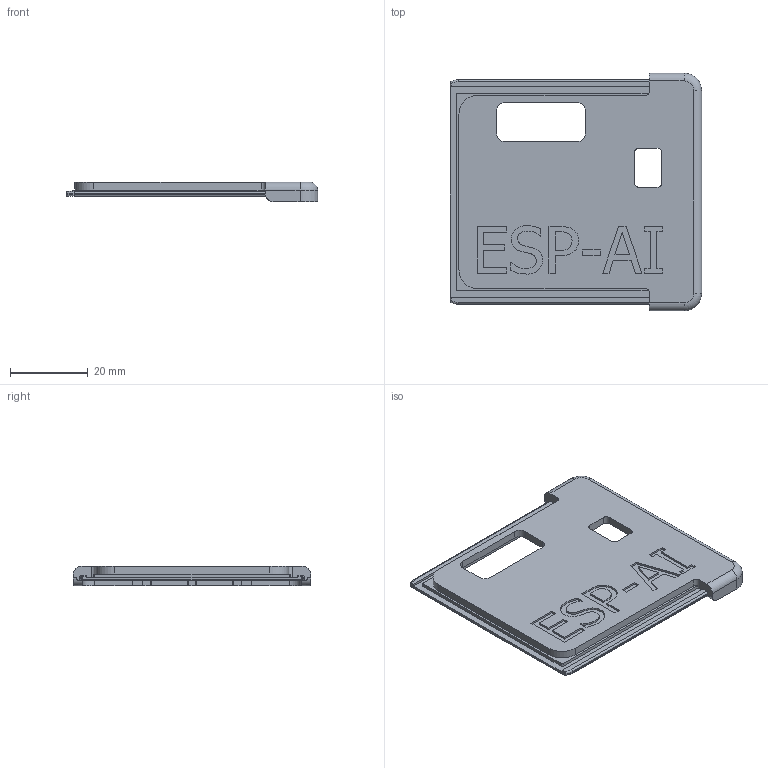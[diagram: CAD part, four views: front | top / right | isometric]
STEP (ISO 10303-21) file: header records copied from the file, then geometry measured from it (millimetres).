
FILE_DESCRIPTION(/* description */ (''),/* implementation_level */ '2;1');
FILE_NAME(/* name */ '',/* time_stamp */ '2025-04-21T07:25:22+08:00',/* author */ ('rhj19'),/* organization */ (''),/* preprocessor_version */ 'ST-DEVELOPER v20',/* originating_system */ 'Autodesk Inventor 2024',/* authorisation */ '');
FILE_SCHEMA (('AUTOMOTIVE_DESIGN { 1 0 10303 214 3 1 1 }'));
Length unit declared in the file: millimetre
Products named in the file (1): 外壳
Bounding box: 64.5 x 61 x 5 mm (x, y, z)
Volume: 6977 mm3; surface area: 8719.1 mm2
Topology: 1 solids, 1 shells, 195 faces, 539 edges, 354 vertices
Faces by surface type: plane 119, cylinder 42, bspline 28, torus 6
Entity records: 6494 total; most frequent: CARTESIAN_POINT 1568, ORIENTED_EDGE 1078, DIRECTION 907, EDGE_CURVE 539, LINE 391, VECTOR 391, VERTEX_POINT 354, AXIS2_PLACEMENT_3D 258
